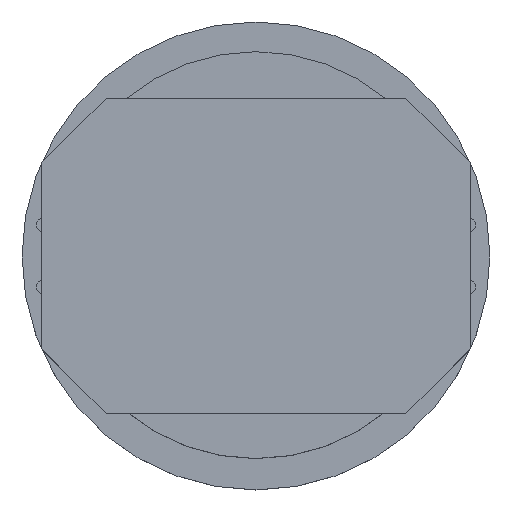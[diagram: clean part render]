
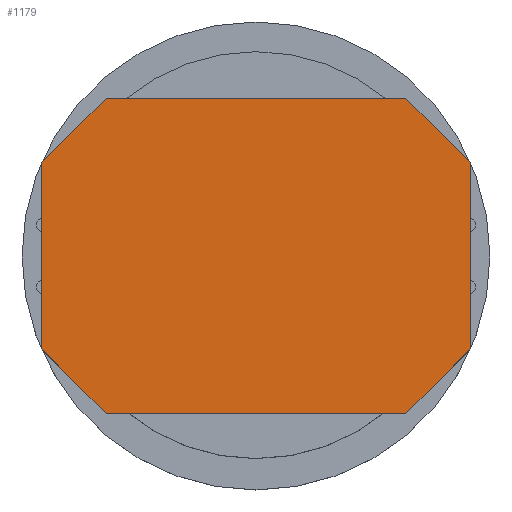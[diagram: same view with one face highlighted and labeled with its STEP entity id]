
A CAD part, top view. The second image highlights one B-rep face of the part: STEP entity #1179.
In plain terms, the highlighted planar face has unit normal (0, 0, 1).
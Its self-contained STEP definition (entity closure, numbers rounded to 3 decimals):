
#557 = VERTEX_POINT('',#558);
#558 = CARTESIAN_POINT('',(-10.541,4.572,4.318));
#565 = PLANE('',#566);
#566 = AXIS2_PLACEMENT_3D('',#567,#568,#569);
#567 = CARTESIAN_POINT('',(-10.541,4.572,0.));
#568 = DIRECTION('',(-0.707,0.707,0.));
#569 = DIRECTION('',(0.707,0.707,0.));
#577 = PLANE('',#578);
#578 = AXIS2_PLACEMENT_3D('',#579,#580,#581);
#579 = CARTESIAN_POINT('',(-10.541,-4.572,0.));
#580 = DIRECTION('',(-1.,0.,0.));
#581 = DIRECTION('',(0.,1.,0.));
#589 = EDGE_CURVE('',#557,#590,#592,.T.);
#590 = VERTEX_POINT('',#591);
#591 = CARTESIAN_POINT('',(-7.366,7.747,4.318));
#592 = SURFACE_CURVE('',#593,(#597,#604),.PCURVE_S1.);
#593 = LINE('',#594,#595);
#594 = CARTESIAN_POINT('',(-10.541,4.572,4.318));
#595 = VECTOR('',#596,1.);
#596 = DIRECTION('',(0.707,0.707,0.));
#597 = PCURVE('',#565,#598);
#598 = DEFINITIONAL_REPRESENTATION('',(#599),#603);
#599 = LINE('',#600,#601);
#600 = CARTESIAN_POINT('',(0.,-4.318));
#601 = VECTOR('',#602,1.);
#602 = DIRECTION('',(1.,0.));
#603 = ( GEOMETRIC_REPRESENTATION_CONTEXT(2) 
PARAMETRIC_REPRESENTATION_CONTEXT() REPRESENTATION_CONTEXT('2D SPACE',''
  ) );
#604 = PCURVE('',#605,#610);
#605 = PLANE('',#606);
#606 = AXIS2_PLACEMENT_3D('',#607,#608,#609);
#607 = CARTESIAN_POINT('',(-10.541,4.572,4.318));
#608 = DIRECTION('',(0.,0.,1.));
#609 = DIRECTION('',(1.,0.,0.));
#610 = DEFINITIONAL_REPRESENTATION('',(#611),#615);
#611 = LINE('',#612,#613);
#612 = CARTESIAN_POINT('',(0.,0.));
#613 = VECTOR('',#614,1.);
#614 = DIRECTION('',(0.707,0.707));
#615 = ( GEOMETRIC_REPRESENTATION_CONTEXT(2) 
PARAMETRIC_REPRESENTATION_CONTEXT() REPRESENTATION_CONTEXT('2D SPACE',''
  ) );
#633 = PLANE('',#634);
#634 = AXIS2_PLACEMENT_3D('',#635,#636,#637);
#635 = CARTESIAN_POINT('',(-7.366,7.747,0.));
#636 = DIRECTION('',(0.,1.,0.));
#637 = DIRECTION('',(1.,0.,0.));
#675 = EDGE_CURVE('',#590,#676,#678,.T.);
#676 = VERTEX_POINT('',#677);
#677 = CARTESIAN_POINT('',(7.366,7.747,4.318));
#678 = SURFACE_CURVE('',#679,(#683,#690),.PCURVE_S1.);
#679 = LINE('',#680,#681);
#680 = CARTESIAN_POINT('',(-7.366,7.747,4.318));
#681 = VECTOR('',#682,1.);
#682 = DIRECTION('',(1.,0.,0.));
#683 = PCURVE('',#633,#684);
#684 = DEFINITIONAL_REPRESENTATION('',(#685),#689);
#685 = LINE('',#686,#687);
#686 = CARTESIAN_POINT('',(0.,-4.318));
#687 = VECTOR('',#688,1.);
#688 = DIRECTION('',(1.,0.));
#689 = ( GEOMETRIC_REPRESENTATION_CONTEXT(2) 
PARAMETRIC_REPRESENTATION_CONTEXT() REPRESENTATION_CONTEXT('2D SPACE',''
  ) );
#690 = PCURVE('',#605,#691);
#691 = DEFINITIONAL_REPRESENTATION('',(#692),#696);
#692 = LINE('',#693,#694);
#693 = CARTESIAN_POINT('',(3.175,3.175));
#694 = VECTOR('',#695,1.);
#695 = DIRECTION('',(1.,0.));
#696 = ( GEOMETRIC_REPRESENTATION_CONTEXT(2) 
PARAMETRIC_REPRESENTATION_CONTEXT() REPRESENTATION_CONTEXT('2D SPACE',''
  ) );
#714 = PLANE('',#715);
#715 = AXIS2_PLACEMENT_3D('',#716,#717,#718);
#716 = CARTESIAN_POINT('',(7.366,7.747,0.));
#717 = DIRECTION('',(0.707,0.707,0.));
#718 = DIRECTION('',(0.707,-0.707,0.));
#751 = EDGE_CURVE('',#676,#752,#754,.T.);
#752 = VERTEX_POINT('',#753);
#753 = CARTESIAN_POINT('',(10.541,4.572,4.318));
#754 = SURFACE_CURVE('',#755,(#759,#766),.PCURVE_S1.);
#755 = LINE('',#756,#757);
#756 = CARTESIAN_POINT('',(7.366,7.747,4.318));
#757 = VECTOR('',#758,1.);
#758 = DIRECTION('',(0.707,-0.707,0.));
#759 = PCURVE('',#714,#760);
#760 = DEFINITIONAL_REPRESENTATION('',(#761),#765);
#761 = LINE('',#762,#763);
#762 = CARTESIAN_POINT('',(0.,-4.318));
#763 = VECTOR('',#764,1.);
#764 = DIRECTION('',(1.,0.));
#765 = ( GEOMETRIC_REPRESENTATION_CONTEXT(2) 
PARAMETRIC_REPRESENTATION_CONTEXT() REPRESENTATION_CONTEXT('2D SPACE',''
  ) );
#766 = PCURVE('',#605,#767);
#767 = DEFINITIONAL_REPRESENTATION('',(#768),#772);
#768 = LINE('',#769,#770);
#769 = CARTESIAN_POINT('',(17.907,3.175));
#770 = VECTOR('',#771,1.);
#771 = DIRECTION('',(0.707,-0.707));
#772 = ( GEOMETRIC_REPRESENTATION_CONTEXT(2) 
PARAMETRIC_REPRESENTATION_CONTEXT() REPRESENTATION_CONTEXT('2D SPACE',''
  ) );
#790 = PLANE('',#791);
#791 = AXIS2_PLACEMENT_3D('',#792,#793,#794);
#792 = CARTESIAN_POINT('',(10.541,4.572,0.));
#793 = DIRECTION('',(1.,0.,0.));
#794 = DIRECTION('',(0.,-1.,0.));
#827 = EDGE_CURVE('',#752,#828,#830,.T.);
#828 = VERTEX_POINT('',#829);
#829 = CARTESIAN_POINT('',(10.541,-4.572,4.318));
#830 = SURFACE_CURVE('',#831,(#835,#842),.PCURVE_S1.);
#831 = LINE('',#832,#833);
#832 = CARTESIAN_POINT('',(10.541,4.572,4.318));
#833 = VECTOR('',#834,1.);
#834 = DIRECTION('',(0.,-1.,0.));
#835 = PCURVE('',#790,#836);
#836 = DEFINITIONAL_REPRESENTATION('',(#837),#841);
#837 = LINE('',#838,#839);
#838 = CARTESIAN_POINT('',(0.,-4.318));
#839 = VECTOR('',#840,1.);
#840 = DIRECTION('',(1.,0.));
#841 = ( GEOMETRIC_REPRESENTATION_CONTEXT(2) 
PARAMETRIC_REPRESENTATION_CONTEXT() REPRESENTATION_CONTEXT('2D SPACE',''
  ) );
#842 = PCURVE('',#605,#843);
#843 = DEFINITIONAL_REPRESENTATION('',(#844),#848);
#844 = LINE('',#845,#846);
#845 = CARTESIAN_POINT('',(21.082,0.));
#846 = VECTOR('',#847,1.);
#847 = DIRECTION('',(0.,-1.));
#848 = ( GEOMETRIC_REPRESENTATION_CONTEXT(2) 
PARAMETRIC_REPRESENTATION_CONTEXT() REPRESENTATION_CONTEXT('2D SPACE',''
  ) );
#866 = PLANE('',#867);
#867 = AXIS2_PLACEMENT_3D('',#868,#869,#870);
#868 = CARTESIAN_POINT('',(10.541,-4.572,0.));
#869 = DIRECTION('',(0.707,-0.707,0.));
#870 = DIRECTION('',(-0.707,-0.707,0.));
#903 = EDGE_CURVE('',#828,#904,#906,.T.);
#904 = VERTEX_POINT('',#905);
#905 = CARTESIAN_POINT('',(7.366,-7.747,4.318));
#906 = SURFACE_CURVE('',#907,(#911,#918),.PCURVE_S1.);
#907 = LINE('',#908,#909);
#908 = CARTESIAN_POINT('',(10.541,-4.572,4.318));
#909 = VECTOR('',#910,1.);
#910 = DIRECTION('',(-0.707,-0.707,0.));
#911 = PCURVE('',#866,#912);
#912 = DEFINITIONAL_REPRESENTATION('',(#913),#917);
#913 = LINE('',#914,#915);
#914 = CARTESIAN_POINT('',(0.,-4.318));
#915 = VECTOR('',#916,1.);
#916 = DIRECTION('',(1.,0.));
#917 = ( GEOMETRIC_REPRESENTATION_CONTEXT(2) 
PARAMETRIC_REPRESENTATION_CONTEXT() REPRESENTATION_CONTEXT('2D SPACE',''
  ) );
#918 = PCURVE('',#605,#919);
#919 = DEFINITIONAL_REPRESENTATION('',(#920),#924);
#920 = LINE('',#921,#922);
#921 = CARTESIAN_POINT('',(21.082,-9.144));
#922 = VECTOR('',#923,1.);
#923 = DIRECTION('',(-0.707,-0.707));
#924 = ( GEOMETRIC_REPRESENTATION_CONTEXT(2) 
PARAMETRIC_REPRESENTATION_CONTEXT() REPRESENTATION_CONTEXT('2D SPACE',''
  ) );
#942 = PLANE('',#943);
#943 = AXIS2_PLACEMENT_3D('',#944,#945,#946);
#944 = CARTESIAN_POINT('',(7.366,-7.747,0.));
#945 = DIRECTION('',(0.,-1.,0.));
#946 = DIRECTION('',(-1.,0.,0.));
#979 = EDGE_CURVE('',#904,#980,#982,.T.);
#980 = VERTEX_POINT('',#981);
#981 = CARTESIAN_POINT('',(-7.366,-7.747,4.318));
#982 = SURFACE_CURVE('',#983,(#987,#994),.PCURVE_S1.);
#983 = LINE('',#984,#985);
#984 = CARTESIAN_POINT('',(7.366,-7.747,4.318));
#985 = VECTOR('',#986,1.);
#986 = DIRECTION('',(-1.,0.,0.));
#987 = PCURVE('',#942,#988);
#988 = DEFINITIONAL_REPRESENTATION('',(#989),#993);
#989 = LINE('',#990,#991);
#990 = CARTESIAN_POINT('',(0.,-4.318));
#991 = VECTOR('',#992,1.);
#992 = DIRECTION('',(1.,0.));
#993 = ( GEOMETRIC_REPRESENTATION_CONTEXT(2) 
PARAMETRIC_REPRESENTATION_CONTEXT() REPRESENTATION_CONTEXT('2D SPACE',''
  ) );
#994 = PCURVE('',#605,#995);
#995 = DEFINITIONAL_REPRESENTATION('',(#996),#1000);
#996 = LINE('',#997,#998);
#997 = CARTESIAN_POINT('',(17.907,-12.319));
#998 = VECTOR('',#999,1.);
#999 = DIRECTION('',(-1.,0.));
#1000 = ( GEOMETRIC_REPRESENTATION_CONTEXT(2) 
PARAMETRIC_REPRESENTATION_CONTEXT() REPRESENTATION_CONTEXT('2D SPACE',''
  ) );
#1018 = PLANE('',#1019);
#1019 = AXIS2_PLACEMENT_3D('',#1020,#1021,#1022);
#1020 = CARTESIAN_POINT('',(-7.366,-7.747,0.));
#1021 = DIRECTION('',(-0.707,-0.707,0.));
#1022 = DIRECTION('',(-0.707,0.707,0.));
#1055 = EDGE_CURVE('',#980,#1056,#1058,.T.);
#1056 = VERTEX_POINT('',#1057);
#1057 = CARTESIAN_POINT('',(-10.541,-4.572,4.318));
#1058 = SURFACE_CURVE('',#1059,(#1063,#1070),.PCURVE_S1.);
#1059 = LINE('',#1060,#1061);
#1060 = CARTESIAN_POINT('',(-7.366,-7.747,4.318));
#1061 = VECTOR('',#1062,1.);
#1062 = DIRECTION('',(-0.707,0.707,0.));
#1063 = PCURVE('',#1018,#1064);
#1064 = DEFINITIONAL_REPRESENTATION('',(#1065),#1069);
#1065 = LINE('',#1066,#1067);
#1066 = CARTESIAN_POINT('',(0.,-4.318));
#1067 = VECTOR('',#1068,1.);
#1068 = DIRECTION('',(1.,0.));
#1069 = ( GEOMETRIC_REPRESENTATION_CONTEXT(2) 
PARAMETRIC_REPRESENTATION_CONTEXT() REPRESENTATION_CONTEXT('2D SPACE',''
  ) );
#1070 = PCURVE('',#605,#1071);
#1071 = DEFINITIONAL_REPRESENTATION('',(#1072),#1076);
#1072 = LINE('',#1073,#1074);
#1073 = CARTESIAN_POINT('',(3.175,-12.319));
#1074 = VECTOR('',#1075,1.);
#1075 = DIRECTION('',(-0.707,0.707));
#1076 = ( GEOMETRIC_REPRESENTATION_CONTEXT(2) 
PARAMETRIC_REPRESENTATION_CONTEXT() REPRESENTATION_CONTEXT('2D SPACE',''
  ) );
#1126 = EDGE_CURVE('',#1056,#557,#1127,.T.);
#1127 = SURFACE_CURVE('',#1128,(#1132,#1139),.PCURVE_S1.);
#1128 = LINE('',#1129,#1130);
#1129 = CARTESIAN_POINT('',(-10.541,-4.572,4.318));
#1130 = VECTOR('',#1131,1.);
#1131 = DIRECTION('',(0.,1.,0.));
#1132 = PCURVE('',#577,#1133);
#1133 = DEFINITIONAL_REPRESENTATION('',(#1134),#1138);
#1134 = LINE('',#1135,#1136);
#1135 = CARTESIAN_POINT('',(0.,-4.318));
#1136 = VECTOR('',#1137,1.);
#1137 = DIRECTION('',(1.,0.));
#1138 = ( GEOMETRIC_REPRESENTATION_CONTEXT(2) 
PARAMETRIC_REPRESENTATION_CONTEXT() REPRESENTATION_CONTEXT('2D SPACE',''
  ) );
#1139 = PCURVE('',#605,#1140);
#1140 = DEFINITIONAL_REPRESENTATION('',(#1141),#1145);
#1141 = LINE('',#1142,#1143);
#1142 = CARTESIAN_POINT('',(0.,-9.144));
#1143 = VECTOR('',#1144,1.);
#1144 = DIRECTION('',(0.,1.));
#1145 = ( GEOMETRIC_REPRESENTATION_CONTEXT(2) 
PARAMETRIC_REPRESENTATION_CONTEXT() REPRESENTATION_CONTEXT('2D SPACE',''
  ) );
#1179 = ADVANCED_FACE('',(#1180),#605,.T.);
#1180 = FACE_BOUND('',#1181,.F.);
#1181 = EDGE_LOOP('',(#1182,#1183,#1184,#1185,#1186,#1187,#1188,#1189));
#1182 = ORIENTED_EDGE('',*,*,#589,.T.);
#1183 = ORIENTED_EDGE('',*,*,#675,.T.);
#1184 = ORIENTED_EDGE('',*,*,#751,.T.);
#1185 = ORIENTED_EDGE('',*,*,#827,.T.);
#1186 = ORIENTED_EDGE('',*,*,#903,.T.);
#1187 = ORIENTED_EDGE('',*,*,#979,.T.);
#1188 = ORIENTED_EDGE('',*,*,#1055,.T.);
#1189 = ORIENTED_EDGE('',*,*,#1126,.T.);
